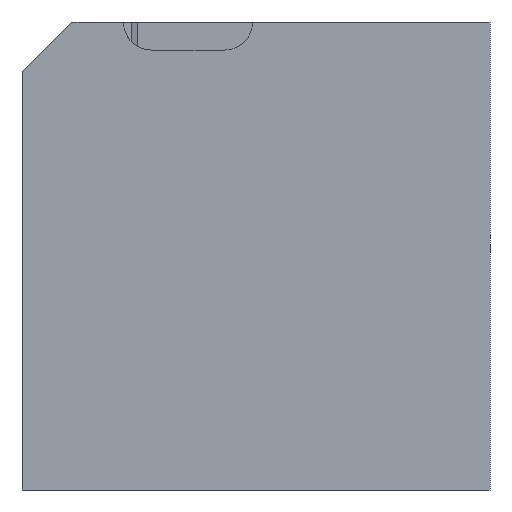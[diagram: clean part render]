
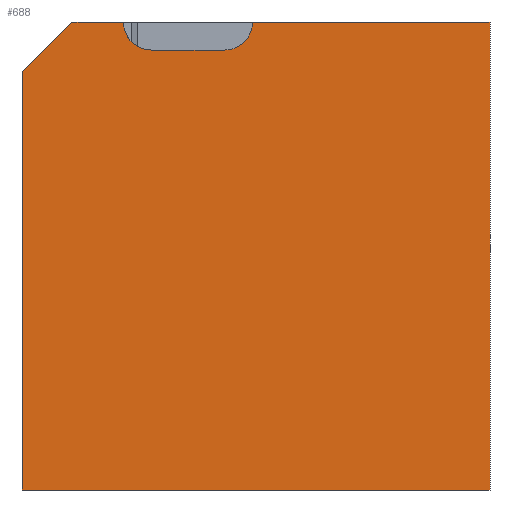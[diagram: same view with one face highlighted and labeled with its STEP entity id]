
A CAD part, front view. The second image highlights one B-rep face of the part: STEP entity #688.
In plain terms, the highlighted planar face has unit normal (0, -1, 0).
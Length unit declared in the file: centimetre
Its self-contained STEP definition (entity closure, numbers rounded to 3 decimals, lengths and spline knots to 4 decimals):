
#8 = ORIENTED_EDGE ( 'NONE', *, *, #551, .F. ) ;
#10 = CARTESIAN_POINT ( 'NONE',  ( 432.4784, 0., 1000. ) ) ;
#28 = VERTEX_POINT ( 'NONE', #592 ) ;
#48 = VERTEX_POINT ( 'NONE', #517 ) ;
#85 = CARTESIAN_POINT ( 'NONE',  ( 432.4784, 0., 940.0015 ) ) ;
#111 = DIRECTION ( 'NONE',  ( 0., -1., 0. ) ) ;
#116 = CARTESIAN_POINT ( 'NONE',  ( 276.58, 0., 940.0015 ) ) ;
#119 = EDGE_CURVE ( 'NONE', #539, #696, #404, .T. ) ;
#141 = AXIS2_PLACEMENT_3D ( 'NONE', #1171, #267, #652 ) ;
#154 = CIRCLE ( 'NONE', #783, 59.9985 ) ;
#159 = CARTESIAN_POINT ( 'NONE',  ( 1000., 0., 1000. ) ) ;
#177 = ORIENTED_EDGE ( 'NONE', *, *, #606, .F. ) ;
#215 = DIRECTION ( 'NONE',  ( 1., 0., 0. ) ) ;
#231 = LINE ( 'NONE', #837, #486 ) ;
#245 = VERTEX_POINT ( 'NONE', #894 ) ;
#267 = DIRECTION ( 'NONE',  ( 0., -1., 0. ) ) ;
#292 = EDGE_CURVE ( 'NONE', #680, #644, #231, .T. ) ;
#313 = EDGE_CURVE ( 'NONE', #644, #28, #425, .T. ) ;
#317 = CARTESIAN_POINT ( 'NONE',  ( 0., 0., 1000. ) ) ;
#330 = FACE_OUTER_BOUND ( 'NONE', #558, .T. ) ;
#385 = CARTESIAN_POINT ( 'NONE',  ( 492.4769, 0., 1000. ) ) ;
#404 = LINE ( 'NONE', #807, #568 ) ;
#409 = VECTOR ( 'NONE', #937, 100. ) ;
#422 = CARTESIAN_POINT ( 'NONE',  ( 1000., 0., 1000. ) ) ;
#425 = LINE ( 'NONE', #737, #409 ) ;
#439 = EDGE_CURVE ( 'NONE', #245, #680, #961, .T. ) ;
#453 = ORIENTED_EDGE ( 'NONE', *, *, #1139, .F. ) ;
#486 = VECTOR ( 'NONE', #1047, 100. ) ;
#497 = LINE ( 'NONE', #1108, #1016 ) ;
#517 = CARTESIAN_POINT ( 'NONE',  ( 216.5815, 0., 1000. ) ) ;
#539 = VERTEX_POINT ( 'NONE', #385 ) ;
#551 = EDGE_CURVE ( 'NONE', #1107, #1272, #587, .T. ) ;
#558 = EDGE_LOOP ( 'NONE', ( #8, #453, #177, #769, #963, #1038, #734, #886, #1208 ) ) ;
#568 = VECTOR ( 'NONE', #215, 100. ) ;
#587 = LINE ( 'NONE', #116, #761 ) ;
#592 = CARTESIAN_POINT ( 'NONE',  ( 1000., 0., 0. ) ) ;
#606 = EDGE_CURVE ( 'NONE', #245, #48, #497, .T. ) ;
#609 = VECTOR ( 'NONE', #864, 100. ) ;
#644 = VERTEX_POINT ( 'NONE', #1018 ) ;
#652 = DIRECTION ( 'NONE',  ( 0., 0., -1. ) ) ;
#675 = AXIS2_PLACEMENT_3D ( 'NONE', #317, #722, #1123 ) ;
#680 = VERTEX_POINT ( 'NONE', #1221 ) ;
#688 = ADVANCED_FACE ( 'NONE', ( #330 ), #929, .F. ) ;
#693 = DIRECTION ( 'NONE',  ( 0., 0., -1. ) ) ;
#696 = VERTEX_POINT ( 'NONE', #422 ) ;
#722 = DIRECTION ( 'NONE',  ( 0., 1., 0. ) ) ;
#734 = ORIENTED_EDGE ( 'NONE', *, *, #1048, .F. ) ;
#737 = CARTESIAN_POINT ( 'NONE',  ( 0., 0., 0. ) ) ;
#752 = CIRCLE ( 'NONE', #141, 59.9985 ) ;
#761 = VECTOR ( 'NONE', #792, 100. ) ;
#769 = ORIENTED_EDGE ( 'NONE', *, *, #439, .T. ) ;
#783 = AXIS2_PLACEMENT_3D ( 'NONE', #10, #111, #693 ) ;
#792 = DIRECTION ( 'NONE',  ( 1., 0., 0. ) ) ;
#807 = CARTESIAN_POINT ( 'NONE',  ( 0., 0., 1000. ) ) ;
#837 = CARTESIAN_POINT ( 'NONE',  ( 0., 0., 1000. ) ) ;
#838 = EDGE_CURVE ( 'NONE', #1272, #539, #154, .T. ) ;
#856 = LINE ( 'NONE', #159, #609 ) ;
#864 = DIRECTION ( 'NONE',  ( 0., 0., -1. ) ) ;
#870 = CARTESIAN_POINT ( 'NONE',  ( 276.58, 0., 940.0015 ) ) ;
#886 = ORIENTED_EDGE ( 'NONE', *, *, #119, .F. ) ;
#894 = CARTESIAN_POINT ( 'NONE',  ( 106.7486, 0., 1000. ) ) ;
#912 = VECTOR ( 'NONE', #1071, 100. ) ;
#929 = PLANE ( 'NONE',  #675 ) ;
#937 = DIRECTION ( 'NONE',  ( 1., 0., 0. ) ) ;
#961 = LINE ( 'NONE', #1059, #912 ) ;
#963 = ORIENTED_EDGE ( 'NONE', *, *, #292, .T. ) ;
#1016 = VECTOR ( 'NONE', #1302, 100. ) ;
#1018 = CARTESIAN_POINT ( 'NONE',  ( 0., 0., 0. ) ) ;
#1038 = ORIENTED_EDGE ( 'NONE', *, *, #313, .T. ) ;
#1047 = DIRECTION ( 'NONE',  ( 0., 0., -1. ) ) ;
#1048 = EDGE_CURVE ( 'NONE', #696, #28, #856, .T. ) ;
#1059 = CARTESIAN_POINT ( 'NONE',  ( 106.7486, 0., 1000. ) ) ;
#1071 = DIRECTION ( 'NONE',  ( -0.707, 0., -0.707 ) ) ;
#1107 = VERTEX_POINT ( 'NONE', #870 ) ;
#1108 = CARTESIAN_POINT ( 'NONE',  ( 0., 0., 1000. ) ) ;
#1123 = DIRECTION ( 'NONE',  ( 0., 0., 1. ) ) ;
#1139 = EDGE_CURVE ( 'NONE', #48, #1107, #752, .T. ) ;
#1171 = CARTESIAN_POINT ( 'NONE',  ( 276.58, 0., 1000. ) ) ;
#1208 = ORIENTED_EDGE ( 'NONE', *, *, #838, .F. ) ;
#1221 = CARTESIAN_POINT ( 'NONE',  ( 0., 0., 893.2514 ) ) ;
#1272 = VERTEX_POINT ( 'NONE', #85 ) ;
#1302 = DIRECTION ( 'NONE',  ( 1., 0., 0. ) ) ;
